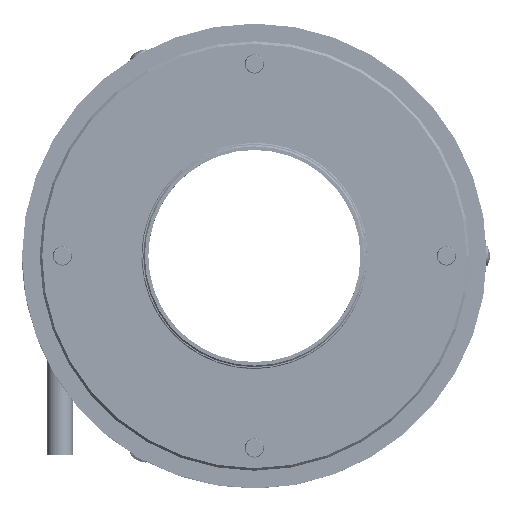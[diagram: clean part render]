
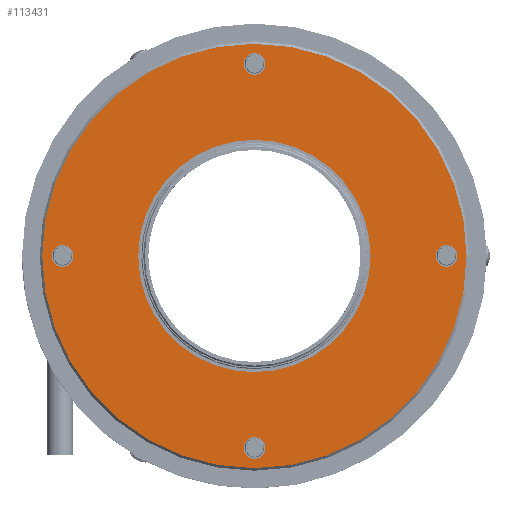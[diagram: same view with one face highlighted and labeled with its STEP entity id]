
A CAD part, left-side view. The second image highlights one B-rep face of the part: STEP entity #113431.
In plain terms, the highlighted planar face has unit normal (-1, 0, 0).
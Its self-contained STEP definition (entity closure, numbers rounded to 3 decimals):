
#321 = AXIS2_PLACEMENT_3D ( 'NONE', #58482, #161083, #73226 ) ;
#963 = ORIENTED_EDGE ( 'NONE', *, *, #78989, .T. ) ;
#2220 = CIRCLE ( 'NONE', #166475, 42. ) ;
#2395 = VERTEX_POINT ( 'NONE', #140767 ) ;
#2436 = DIRECTION ( 'NONE',  ( 1., 0., 0. ) ) ;
#4414 = FACE_BOUND ( 'NONE', #170237, .T. ) ;
#8906 = EDGE_CURVE ( 'NONE', #38643, #47630, #118516, .T. ) ;
#9429 = CIRCLE ( 'NONE', #321, 2.15 ) ;
#13006 = AXIS2_PLACEMENT_3D ( 'NONE', #37982, #140574, #52826 ) ;
#13643 = CARTESIAN_POINT ( 'NONE',  ( 11.307, 32.391, 29.428 ) ) ;
#15525 = VERTEX_POINT ( 'NONE', #117474 ) ;
#16805 = CARTESIAN_POINT ( 'NONE',  ( 11.307, 34.541, 67.428 ) ) ;
#19130 = CARTESIAN_POINT ( 'NONE',  ( 11.307, -7.759, 29.428 ) ) ;
#20693 = ORIENTED_EDGE ( 'NONE', *, *, #25678, .F. ) ;
#25046 = ORIENTED_EDGE ( 'NONE', *, *, #126284, .T. ) ;
#25678 = EDGE_CURVE ( 'NONE', #47370, #83650, #60621, .T. ) ;
#26364 = DIRECTION ( 'NONE',  ( 1., 0., 0. ) ) ;
#28042 = VERTEX_POINT ( 'NONE', #19130 ) ;
#28529 = DIRECTION ( 'NONE',  ( 0., 1., 0. ) ) ;
#29051 = AXIS2_PLACEMENT_3D ( 'NONE', #90629, #2436, #105360 ) ;
#29674 = AXIS2_PLACEMENT_3D ( 'NONE', #91205, #91155, #90918 ) ;
#29876 = CARTESIAN_POINT ( 'NONE',  ( 11.307, -5.609, 29.428 ) ) ;
#31270 = AXIS2_PLACEMENT_3D ( 'NONE', #161755, #73876, #176459 ) ;
#31971 = CARTESIAN_POINT ( 'NONE',  ( 11.307, 55.391, 29.428 ) ) ;
#36397 = EDGE_CURVE ( 'NONE', #127148, #73633, #115718, .T. ) ;
#37982 = CARTESIAN_POINT ( 'NONE',  ( 11.307, 70.391, 29.428 ) ) ;
#38643 = VERTEX_POINT ( 'NONE', #31971 ) ;
#41635 = CARTESIAN_POINT ( 'NONE',  ( 11.307, -5.609, 29.428 ) ) ;
#43739 = FACE_BOUND ( 'NONE', #141714, .T. ) ;
#44019 = EDGE_CURVE ( 'NONE', #76555, #2395, #67171, .T. ) ;
#44734 = DIRECTION ( 'NONE',  ( 0., -1., 0. ) ) ;
#47026 = CIRCLE ( 'NONE', #13006, 2.15 ) ;
#47370 = VERTEX_POINT ( 'NONE', #94266 ) ;
#47630 = VERTEX_POINT ( 'NONE', #146952 ) ;
#48328 = FACE_BOUND ( 'NONE', #76246, .T. ) ;
#48769 = EDGE_CURVE ( 'NONE', #47630, #38643, #184673, .T. ) ;
#52826 = DIRECTION ( 'NONE',  ( 0., -1., 0. ) ) ;
#53704 = VERTEX_POINT ( 'NONE', #106040 ) ;
#54331 = ORIENTED_EDGE ( 'NONE', *, *, #80559, .T. ) ;
#56412 = DIRECTION ( 'NONE',  ( 0., -1., 0. ) ) ;
#58482 = CARTESIAN_POINT ( 'NONE',  ( 11.307, 32.391, -8.572 ) ) ;
#60621 = CIRCLE ( 'NONE', #138714, 42. ) ;
#61611 = ORIENTED_EDGE ( 'NONE', *, *, #48769, .T. ) ;
#64136 = CARTESIAN_POINT ( 'NONE',  ( 11.307, 32.391, 67.428 ) ) ;
#67171 = CIRCLE ( 'NONE', #183071, 2.15 ) ;
#73226 = DIRECTION ( 'NONE',  ( 0., -1., 0. ) ) ;
#73633 = VERTEX_POINT ( 'NONE', #131691 ) ;
#73876 = DIRECTION ( 'NONE',  ( -1., 0., 0. ) ) ;
#76077 = ORIENTED_EDGE ( 'NONE', *, *, #44019, .T. ) ;
#76246 = EDGE_LOOP ( 'NONE', ( #79084, #61611 ) ) ;
#76555 = VERTEX_POINT ( 'NONE', #16805 ) ;
#78497 = DIRECTION ( 'NONE',  ( 0., -1., 0. ) ) ;
#78730 = DIRECTION ( 'NONE',  ( 1., 0., 0. ) ) ;
#78905 = DIRECTION ( 'NONE',  ( 0., -1., 0. ) ) ;
#78989 = EDGE_CURVE ( 'NONE', #2395, #76555, #179519, .T. ) ;
#79084 = ORIENTED_EDGE ( 'NONE', *, *, #8906, .T. ) ;
#79157 = CARTESIAN_POINT ( 'NONE',  ( 11.307, 32.391, 67.428 ) ) ;
#79465 = ORIENTED_EDGE ( 'NONE', *, *, #183236, .T. ) ;
#80559 = EDGE_CURVE ( 'NONE', #15525, #28042, #177227, .T. ) ;
#82731 = FACE_BOUND ( 'NONE', #163502, .T. ) ;
#83650 = VERTEX_POINT ( 'NONE', #147983 ) ;
#90629 = CARTESIAN_POINT ( 'NONE',  ( 11.307, 32.391, -8.572 ) ) ;
#90918 = DIRECTION ( 'NONE',  ( 0., 1., 0. ) ) ;
#91155 = DIRECTION ( 'NONE',  ( 1., 0., 0. ) ) ;
#91205 = CARTESIAN_POINT ( 'NONE',  ( 11.307, 32.391, 29.428 ) ) ;
#94266 = CARTESIAN_POINT ( 'NONE',  ( 11.307, 32.391, 71.428 ) ) ;
#97094 = EDGE_LOOP ( 'NONE', ( #116868, #20693 ) ) ;
#98406 = ORIENTED_EDGE ( 'NONE', *, *, #169318, .T. ) ;
#105360 = DIRECTION ( 'NONE',  ( 0., -1., 0. ) ) ;
#106040 = CARTESIAN_POINT ( 'NONE',  ( 11.307, 30.241, -8.572 ) ) ;
#109309 = ORIENTED_EDGE ( 'NONE', *, *, #36397, .T. ) ;
#109343 = AXIS2_PLACEMENT_3D ( 'NONE', #13643, #116491, #28529 ) ;
#113364 = EDGE_CURVE ( 'NONE', #83650, #47370, #2220, .T. ) ;
#113431 = ADVANCED_FACE ( 'NONE', ( #160759, #48328, #121696, #82731, #43739, #4414 ), #131556, .T. ) ;
#114293 = CARTESIAN_POINT ( 'NONE',  ( 11.307, 32.391, 29.428 ) ) ;
#115718 = CIRCLE ( 'NONE', #182740, 2.15 ) ;
#116491 = DIRECTION ( 'NONE',  ( 1., 0., 0. ) ) ;
#116868 = ORIENTED_EDGE ( 'NONE', *, *, #113364, .F. ) ;
#117474 = CARTESIAN_POINT ( 'NONE',  ( 11.307, -3.459, 29.428 ) ) ;
#118516 = CIRCLE ( 'NONE', #29674, 23. ) ;
#121696 = FACE_BOUND ( 'NONE', #155830, .T. ) ;
#123476 = CIRCLE ( 'NONE', #170904, 2.15 ) ;
#126284 = EDGE_CURVE ( 'NONE', #53704, #140700, #9429, .T. ) ;
#127148 = VERTEX_POINT ( 'NONE', #154982 ) ;
#129011 = DIRECTION ( 'NONE',  ( 0., 0., -1. ) ) ;
#131090 = CARTESIAN_POINT ( 'NONE',  ( 11.307, 34.541, -8.572 ) ) ;
#131556 = PLANE ( 'NONE',  #31270 ) ;
#131691 = CARTESIAN_POINT ( 'NONE',  ( 11.307, 72.541, 29.428 ) ) ;
#131879 = DIRECTION ( 'NONE',  ( 0., 0., -1. ) ) ;
#132096 = DIRECTION ( 'NONE',  ( 1., 0., 0. ) ) ;
#132285 = CARTESIAN_POINT ( 'NONE',  ( 11.307, 32.391, 29.428 ) ) ;
#132539 = DIRECTION ( 'NONE',  ( 1., 0., 0. ) ) ;
#138714 = AXIS2_PLACEMENT_3D ( 'NONE', #132285, #132096, #131879 ) ;
#140574 = DIRECTION ( 'NONE',  ( 1., 0., 0. ) ) ;
#140700 = VERTEX_POINT ( 'NONE', #131090 ) ;
#140767 = CARTESIAN_POINT ( 'NONE',  ( 11.307, 30.241, 67.428 ) ) ;
#141714 = EDGE_LOOP ( 'NONE', ( #150653, #54331 ) ) ;
#144171 = DIRECTION ( 'NONE',  ( 1., 0., 0. ) ) ;
#146952 = CARTESIAN_POINT ( 'NONE',  ( 11.307, 9.391, 29.428 ) ) ;
#147983 = CARTESIAN_POINT ( 'NONE',  ( 11.307, 32.391, -12.572 ) ) ;
#150653 = ORIENTED_EDGE ( 'NONE', *, *, #189732, .T. ) ;
#154982 = CARTESIAN_POINT ( 'NONE',  ( 11.307, 68.241, 29.428 ) ) ;
#155830 = EDGE_LOOP ( 'NONE', ( #109309, #79465 ) ) ;
#160759 = FACE_OUTER_BOUND ( 'NONE', #97094, .T. ) ;
#161083 = DIRECTION ( 'NONE',  ( 1., 0., 0. ) ) ;
#161755 = CARTESIAN_POINT ( 'NONE',  ( 11.307, 55.391, 29.428 ) ) ;
#163502 = EDGE_LOOP ( 'NONE', ( #25046, #98406 ) ) ;
#166475 = AXIS2_PLACEMENT_3D ( 'NONE', #114293, #26364, #129011 ) ;
#166714 = DIRECTION ( 'NONE',  ( 1., 0., 0. ) ) ;
#167749 = DIRECTION ( 'NONE',  ( 0., -1., 0. ) ) ;
#167965 = DIRECTION ( 'NONE',  ( 1., 0., 0. ) ) ;
#168369 = CARTESIAN_POINT ( 'NONE',  ( 11.307, 70.391, 29.428 ) ) ;
#169318 = EDGE_CURVE ( 'NONE', #140700, #53704, #182398, .T. ) ;
#170237 = EDGE_LOOP ( 'NONE', ( #963, #76077 ) ) ;
#170904 = AXIS2_PLACEMENT_3D ( 'NONE', #29876, #132539, #44734 ) ;
#173758 = AXIS2_PLACEMENT_3D ( 'NONE', #64136, #166714, #78905 ) ;
#176459 = DIRECTION ( 'NONE',  ( 0., -1., 0. ) ) ;
#177227 = CIRCLE ( 'NONE', #180143, 2.15 ) ;
#179519 = CIRCLE ( 'NONE', #173758, 2.15 ) ;
#180143 = AXIS2_PLACEMENT_3D ( 'NONE', #41635, #144171, #56412 ) ;
#182398 = CIRCLE ( 'NONE', #29051, 2.15 ) ;
#182740 = AXIS2_PLACEMENT_3D ( 'NONE', #168369, #167965, #167749 ) ;
#183071 = AXIS2_PLACEMENT_3D ( 'NONE', #79157, #78730, #78497 ) ;
#183236 = EDGE_CURVE ( 'NONE', #73633, #127148, #47026, .T. ) ;
#184673 = CIRCLE ( 'NONE', #109343, 23. ) ;
#189732 = EDGE_CURVE ( 'NONE', #28042, #15525, #123476, .T. ) ;
